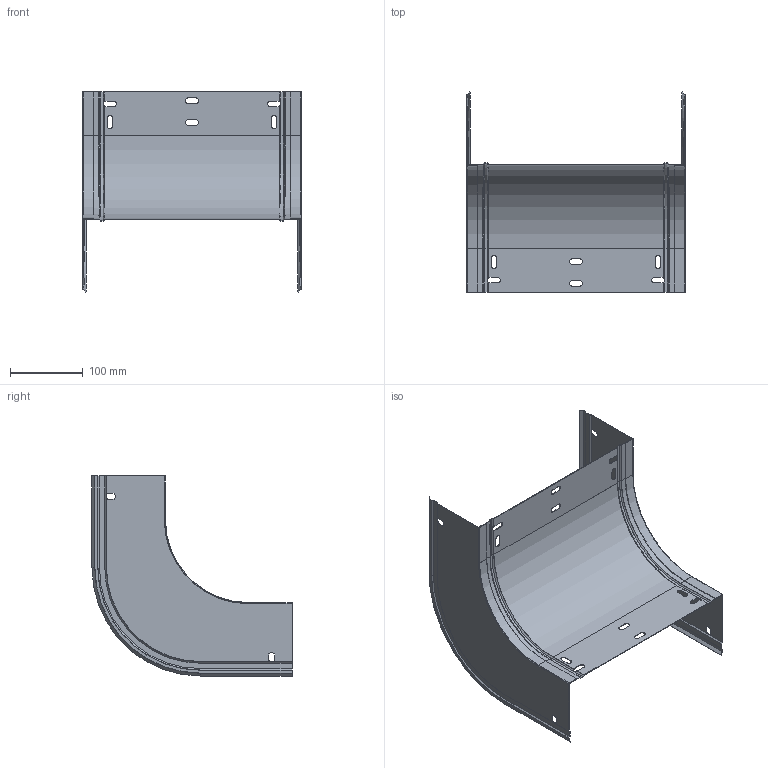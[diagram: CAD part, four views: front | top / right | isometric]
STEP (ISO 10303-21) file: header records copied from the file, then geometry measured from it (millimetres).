
FILE_DESCRIPTION (( 'STEP AP203' ), '1' );
FILE_NAME ('ERE_CONVEXA 300x100.step', '2023-07-27T18:49:38', ( '' ), ( '' ), 'SwSTEP 2.0', 'SolidWorks 2022', '' );
FILE_SCHEMA (( 'CONFIG_CONTROL_DESIGN' ));
Length unit declared in the file: millimetre
Products named in the file (3): ERE_BASE CX_300; ERE_LATERAL CX_100; ERE_CONVEXA 300x100
Assembly tree (3 placements, depth 2):
  ERE_CONVEXA 300x100
    ERE_BASE CX_300
    ERE_LATERAL CX_100  x2
Bounding box: 300 x 275.2 x 275.2 mm (x, y, z)
Volume: 149511 mm3; surface area: 376927.2 mm2
Topology: 3 solids, 3 shells, 232 faces, 632 edges, 394 vertices
Faces by surface type: plane 142, cylinder 64, cone 22, torus 4
Entity records: 5896 total; most frequent: CARTESIAN_POINT 1008, ORIENTED_EDGE 966, DIRECTION 957, EDGE_CURVE 483, LINE 343, VECTOR 343, AXIS2_PLACEMENT_3D 307, VERTEX_POINT 302
